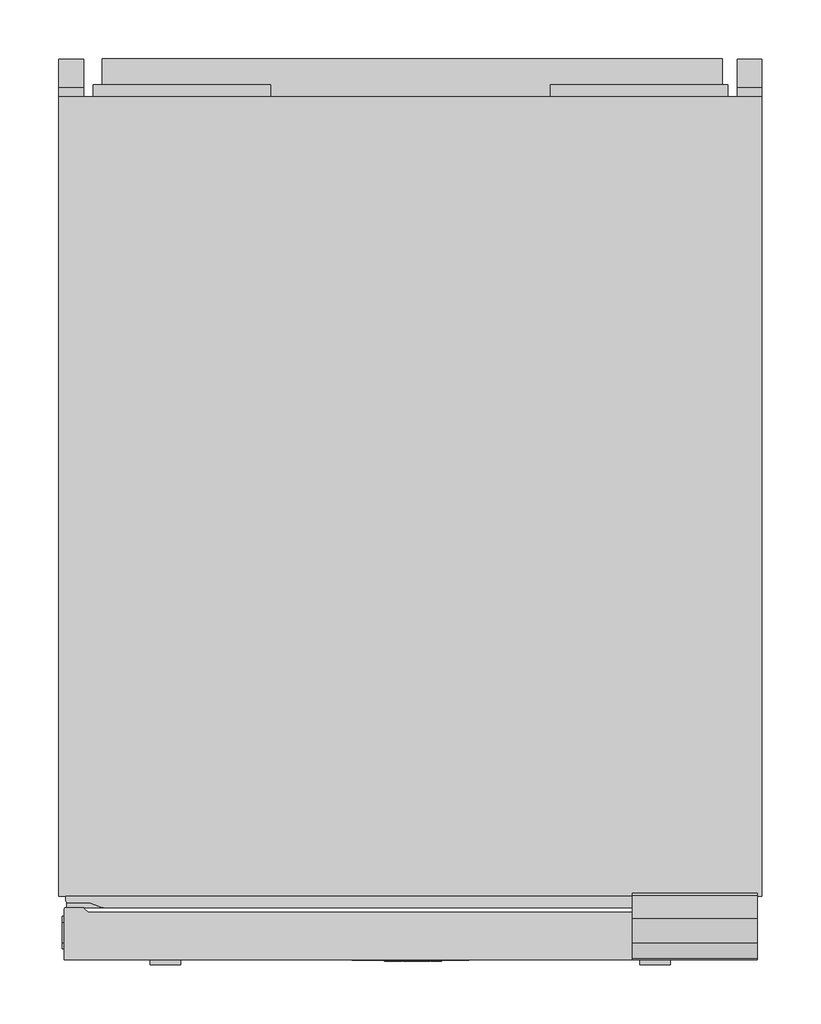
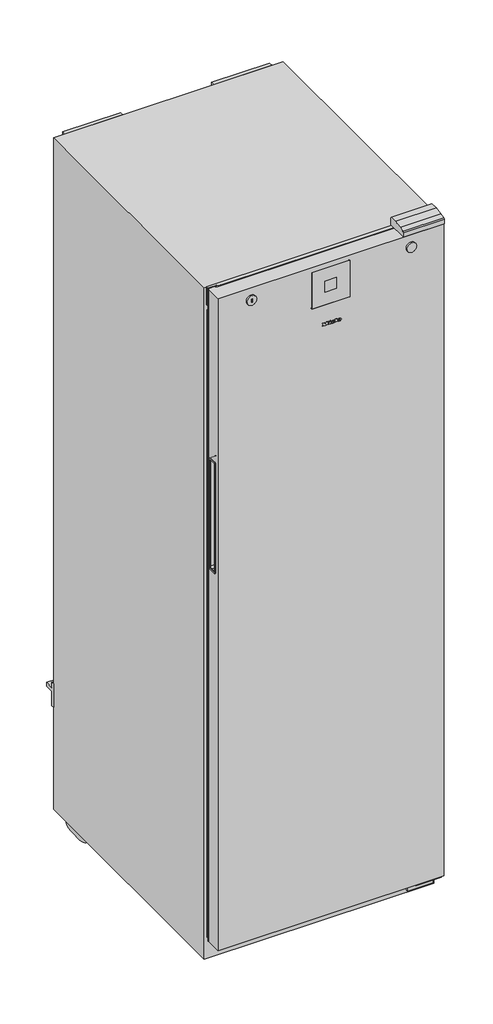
# Not in any storey: 1 proxy.
"""IFC4 building model written with IfcOpenShell, lengths in millimetres."""

from ifc_helpers import new_model, si_unit, origin, place, context, project, spatial, transform, mapped, element, save
from components import specialty_equipment_61aea310

model = new_model("IFC4")

# Units and contexts
model_context = context("Model", 3, world=origin())
ifc_project = project(units=[si_unit("LENGTHUNIT", "METRE", prefix="MILLI")], contexts=[model_context])

# Site, building
site = spatial("IfcSite", under=ifc_project)
building = spatial("IfcBuilding", under=site)

# Proxy
placement = place(None, origin())
specialty_equipment_shape = specialty_equipment_61aea310(model_context)
element("IfcBuildingElementProxy", 1, Name="12537610_OER_KWT4584E_OBSW : 39458451_OER_12537610_KWT4584E_OBSW", ObjectType="12537610_OER_KWT4584E_OBSW : 39458451_OER_12537610_KWT4584E_OBSW", at=placement, inside=building, context=model_context, shape_type="MappedRepresentation", body=[
    mapped(specialty_equipment_shape, transform((0.0, 0.0, 0.0), x_axis=(1.0, 0.0, 0.0), y_axis=(0.0, 1.0, 0.0), z_axis=(0.0, 0.0, 1.0))),
])

save(model, "model.ifc")
